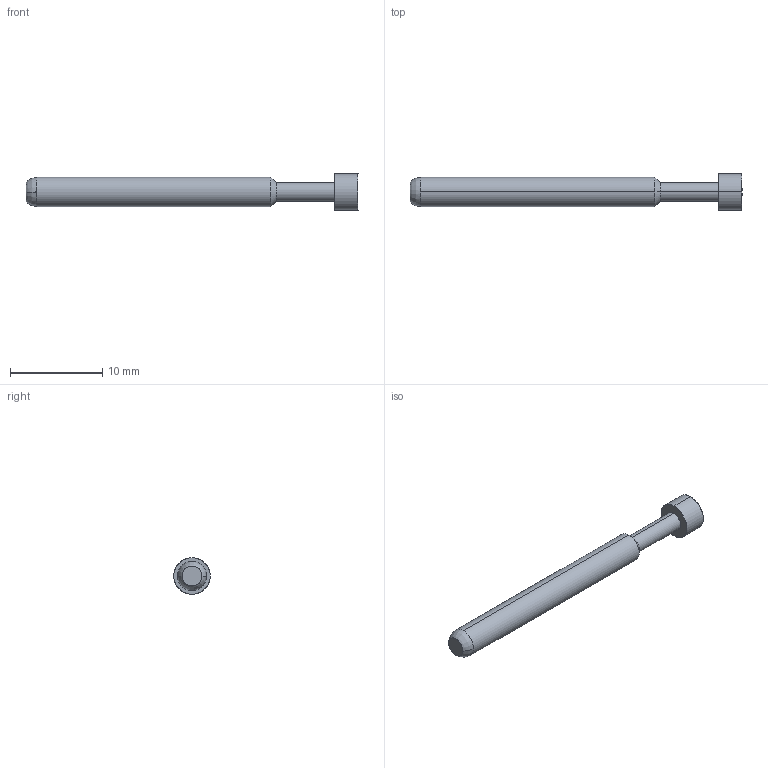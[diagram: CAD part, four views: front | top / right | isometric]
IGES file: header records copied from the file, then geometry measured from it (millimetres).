
Start section: SolidWorks IGES file using analytic representation for surfaces
Global section: file name: Z:\probe solid model mockups\Solidworks models\IGES Files\EPA-5 IGES files\EPA-5A.IGS; native system: SolidWorks 2006 by SolidWorks Corporation; preprocessor: SolidWorks 2006 by SolidWorks Corporation; author: tsakatani; date: 080103.110610; units: inch
Bounding box: 36.07 x 3.96 x 3.96 mm (x, y, z)
Surface area: 374.3 mm2 (no closed solid volume)
Topology: 0 solids, 0 shells, 14 faces, 148 edges, 146 vertices
Faces by surface type: revolution 12, bspline 2
